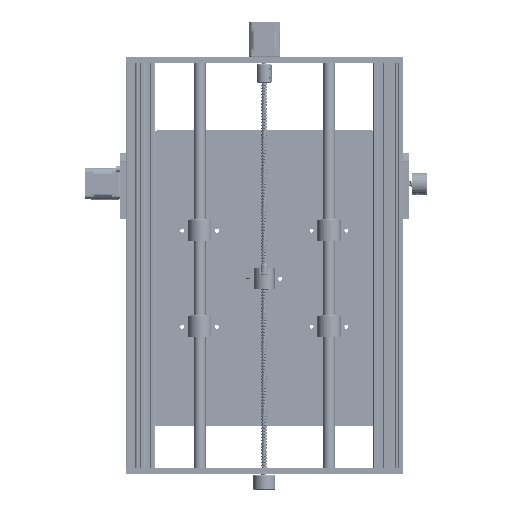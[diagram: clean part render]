
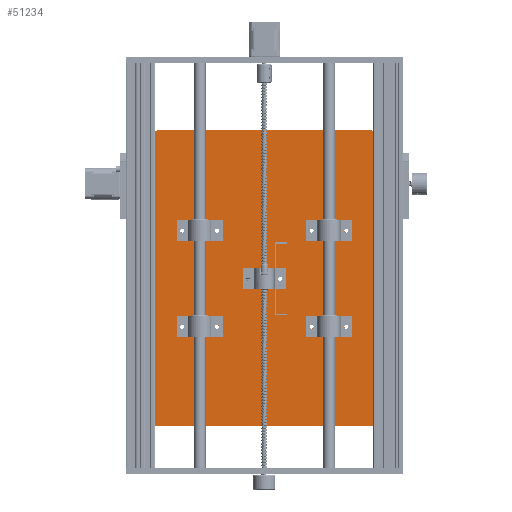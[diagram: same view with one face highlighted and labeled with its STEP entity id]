
A CAD part, front view. The second image highlights one B-rep face of the part: STEP entity #51234.
In plain terms, the highlighted planar face has unit normal (0, -1, 0).
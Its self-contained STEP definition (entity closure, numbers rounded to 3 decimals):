
#4054=FACE_BOUND('',#9950,.T.);
#4055=FACE_BOUND('',#9951,.T.);
#4056=FACE_BOUND('',#9952,.T.);
#4057=FACE_BOUND('',#9953,.T.);
#4058=FACE_BOUND('',#9954,.T.);
#4059=FACE_BOUND('',#9955,.T.);
#4060=FACE_BOUND('',#9956,.T.);
#4061=FACE_BOUND('',#9957,.T.);
#4062=FACE_BOUND('',#9958,.T.);
#4063=FACE_BOUND('',#9959,.T.);
#4868=PLANE('',#55576);
#7024=FACE_OUTER_BOUND('',#9949,.T.);
#9949=EDGE_LOOP('',(#43208,#43209,#43210,#43211,#43212,#43213,#43214,#43215));
#9950=EDGE_LOOP('',(#43216));
#9951=EDGE_LOOP('',(#43217));
#9952=EDGE_LOOP('',(#43218));
#9953=EDGE_LOOP('',(#43219));
#9954=EDGE_LOOP('',(#43220));
#9955=EDGE_LOOP('',(#43221));
#9956=EDGE_LOOP('',(#43222));
#9957=EDGE_LOOP('',(#43223));
#9958=EDGE_LOOP('',(#43224));
#9959=EDGE_LOOP('',(#43225));
#13621=LINE('',#150830,#17149);
#13624=LINE('',#150839,#17152);
#13627=LINE('',#150847,#17155);
#13629=LINE('',#150853,#17157);
#17149=VECTOR('',#64665,10.);
#17152=VECTOR('',#64676,10.);
#17155=VECTOR('',#64685,10.);
#17157=VECTOR('',#64693,10.);
#18651=CIRCLE('',#55485,2.65);
#18655=CIRCLE('',#55492,2.65);
#18659=CIRCLE('',#55499,2.65);
#18663=CIRCLE('',#55506,2.65);
#18667=CIRCLE('',#55513,2.65);
#18671=CIRCLE('',#55520,2.65);
#18675=CIRCLE('',#55527,2.65);
#18679=CIRCLE('',#55534,2.65);
#18683=CIRCLE('',#55541,2.65);
#18687=CIRCLE('',#55548,2.65);
#18692=CIRCLE('',#55564,5.);
#18693=CIRCLE('',#55568,5.);
#18694=CIRCLE('',#55571,5.);
#18695=CIRCLE('',#55574,5.);
#23011=VERTEX_POINT('',#150635);
#23015=VERTEX_POINT('',#150648);
#23019=VERTEX_POINT('',#150661);
#23023=VERTEX_POINT('',#150674);
#23027=VERTEX_POINT('',#150687);
#23031=VERTEX_POINT('',#150700);
#23035=VERTEX_POINT('',#150713);
#23039=VERTEX_POINT('',#150726);
#23043=VERTEX_POINT('',#150739);
#23047=VERTEX_POINT('',#150752);
#23072=VERTEX_POINT('',#150822);
#23073=VERTEX_POINT('',#150824);
#23074=VERTEX_POINT('',#150828);
#23075=VERTEX_POINT('',#150833);
#23076=VERTEX_POINT('',#150837);
#23077=VERTEX_POINT('',#150841);
#23078=VERTEX_POINT('',#150845);
#23079=VERTEX_POINT('',#150849);
#29967=EDGE_CURVE('',#23011,#23011,#18651,.T.);
#29973=EDGE_CURVE('',#23015,#23015,#18655,.T.);
#29979=EDGE_CURVE('',#23019,#23019,#18659,.T.);
#29985=EDGE_CURVE('',#23023,#23023,#18663,.T.);
#29991=EDGE_CURVE('',#23027,#23027,#18667,.T.);
#29997=EDGE_CURVE('',#23031,#23031,#18671,.T.);
#30003=EDGE_CURVE('',#23035,#23035,#18675,.T.);
#30009=EDGE_CURVE('',#23039,#23039,#18679,.T.);
#30015=EDGE_CURVE('',#23043,#23043,#18683,.T.);
#30021=EDGE_CURVE('',#23047,#23047,#18687,.T.);
#30055=EDGE_CURVE('',#23072,#23073,#18692,.T.);
#30058=EDGE_CURVE('',#23074,#23072,#13621,.T.);
#30060=EDGE_CURVE('',#23075,#23074,#18693,.T.);
#30062=EDGE_CURVE('',#23076,#23075,#13624,.T.);
#30064=EDGE_CURVE('',#23077,#23076,#18694,.T.);
#30066=EDGE_CURVE('',#23078,#23077,#13627,.T.);
#30068=EDGE_CURVE('',#23079,#23078,#18695,.T.);
#30069=EDGE_CURVE('',#23073,#23079,#13629,.T.);
#43208=ORIENTED_EDGE('',*,*,#30055,.F.);
#43209=ORIENTED_EDGE('',*,*,#30058,.F.);
#43210=ORIENTED_EDGE('',*,*,#30060,.F.);
#43211=ORIENTED_EDGE('',*,*,#30062,.F.);
#43212=ORIENTED_EDGE('',*,*,#30064,.F.);
#43213=ORIENTED_EDGE('',*,*,#30066,.F.);
#43214=ORIENTED_EDGE('',*,*,#30068,.F.);
#43215=ORIENTED_EDGE('',*,*,#30069,.F.);
#43216=ORIENTED_EDGE('',*,*,#29967,.T.);
#43217=ORIENTED_EDGE('',*,*,#29973,.T.);
#43218=ORIENTED_EDGE('',*,*,#29979,.T.);
#43219=ORIENTED_EDGE('',*,*,#29985,.T.);
#43220=ORIENTED_EDGE('',*,*,#29991,.T.);
#43221=ORIENTED_EDGE('',*,*,#29997,.T.);
#43222=ORIENTED_EDGE('',*,*,#30003,.T.);
#43223=ORIENTED_EDGE('',*,*,#30009,.T.);
#43224=ORIENTED_EDGE('',*,*,#30015,.T.);
#43225=ORIENTED_EDGE('',*,*,#30021,.T.);
#51234=ADVANCED_FACE('',(#7024,#4054,#4055,#4056,#4057,#4058,#4059,#4060,
#4061,#4062,#4063),#4868,.F.);
#55485=AXIS2_PLACEMENT_3D('',#150637,#64454,#64455);
#55492=AXIS2_PLACEMENT_3D('',#150650,#64470,#64471);
#55499=AXIS2_PLACEMENT_3D('',#150663,#64486,#64487);
#55506=AXIS2_PLACEMENT_3D('',#150676,#64502,#64503);
#55513=AXIS2_PLACEMENT_3D('',#150689,#64518,#64519);
#55520=AXIS2_PLACEMENT_3D('',#150702,#64534,#64535);
#55527=AXIS2_PLACEMENT_3D('',#150715,#64550,#64551);
#55534=AXIS2_PLACEMENT_3D('',#150728,#64566,#64567);
#55541=AXIS2_PLACEMENT_3D('',#150741,#64582,#64583);
#55548=AXIS2_PLACEMENT_3D('',#150754,#64598,#64599);
#55564=AXIS2_PLACEMENT_3D('',#150825,#64659,#64660);
#55568=AXIS2_PLACEMENT_3D('',#150835,#64671,#64672);
#55571=AXIS2_PLACEMENT_3D('',#150843,#64680,#64681);
#55574=AXIS2_PLACEMENT_3D('',#150851,#64689,#64690);
#55576=AXIS2_PLACEMENT_3D('',#150854,#64694,#64695);
#64454=DIRECTION('center_axis',(0.,1.,0.));
#64455=DIRECTION('ref_axis',(1.,0.,0.));
#64470=DIRECTION('center_axis',(0.,1.,0.));
#64471=DIRECTION('ref_axis',(1.,0.,0.));
#64486=DIRECTION('center_axis',(0.,1.,0.));
#64487=DIRECTION('ref_axis',(1.,0.,0.));
#64502=DIRECTION('center_axis',(0.,1.,0.));
#64503=DIRECTION('ref_axis',(1.,0.,0.));
#64518=DIRECTION('center_axis',(0.,1.,0.));
#64519=DIRECTION('ref_axis',(1.,0.,0.));
#64534=DIRECTION('center_axis',(0.,1.,0.));
#64535=DIRECTION('ref_axis',(1.,0.,0.));
#64550=DIRECTION('center_axis',(0.,1.,0.));
#64551=DIRECTION('ref_axis',(1.,0.,0.));
#64566=DIRECTION('center_axis',(0.,1.,0.));
#64567=DIRECTION('ref_axis',(1.,0.,0.));
#64582=DIRECTION('center_axis',(0.,1.,0.));
#64583=DIRECTION('ref_axis',(1.,0.,0.));
#64598=DIRECTION('center_axis',(0.,1.,0.));
#64599=DIRECTION('ref_axis',(1.,0.,0.));
#64659=DIRECTION('center_axis',(0.,1.,0.));
#64660=DIRECTION('ref_axis',(-0.707,0.,-0.707));
#64665=DIRECTION('',(-1.,0.,0.));
#64671=DIRECTION('center_axis',(0.,1.,0.));
#64672=DIRECTION('ref_axis',(0.707,0.,-0.707));
#64676=DIRECTION('',(0.,0.,-1.));
#64680=DIRECTION('center_axis',(0.,1.,0.));
#64681=DIRECTION('ref_axis',(0.707,0.,0.707));
#64685=DIRECTION('',(1.,0.,0.));
#64689=DIRECTION('center_axis',(0.,1.,0.));
#64690=DIRECTION('ref_axis',(-0.707,0.,0.707));
#64693=DIRECTION('',(0.,0.,1.));
#64694=DIRECTION('center_axis',(0.,1.,0.));
#64695=DIRECTION('ref_axis',(0.,0.,1.));
#150635=CARTESIAN_POINT('',(-67.15,0.,111.));
#150637=CARTESIAN_POINT('Origin',(-64.5,0.,111.));
#150648=CARTESIAN_POINT('',(-67.15,0.,64.));
#150650=CARTESIAN_POINT('Origin',(-64.5,0.,64.));
#150661=CARTESIAN_POINT('',(-67.15,0.,-111.));
#150663=CARTESIAN_POINT('Origin',(-64.5,0.,-111.));
#150674=CARTESIAN_POINT('',(-67.15,0.,-64.));
#150676=CARTESIAN_POINT('Origin',(-64.5,0.,-64.));
#150687=CARTESIAN_POINT('',(-2.15,0.,-21.5));
#150689=CARTESIAN_POINT('Origin',(0.5,0.,-21.5));
#150700=CARTESIAN_POINT('',(-2.15,0.,21.5));
#150702=CARTESIAN_POINT('Origin',(0.5,0.,21.5));
#150713=CARTESIAN_POINT('',(62.85,0.,111.));
#150715=CARTESIAN_POINT('Origin',(65.5,0.,111.));
#150726=CARTESIAN_POINT('',(62.85,0.,64.));
#150728=CARTESIAN_POINT('Origin',(65.5,0.,64.));
#150739=CARTESIAN_POINT('',(62.85,0.,-111.));
#150741=CARTESIAN_POINT('Origin',(65.5,0.,-111.));
#150752=CARTESIAN_POINT('',(62.85,0.,-64.));
#150754=CARTESIAN_POINT('Origin',(65.5,0.,-64.));
#150822=CARTESIAN_POINT('',(-195.,0.,-150.));
#150824=CARTESIAN_POINT('',(-200.,0.,-145.));
#150825=CARTESIAN_POINT('Origin',(-195.,0.,-145.));
#150828=CARTESIAN_POINT('',(195.,0.,-150.));
#150830=CARTESIAN_POINT('',(200.,0.,-150.));
#150833=CARTESIAN_POINT('',(200.,0.,-145.));
#150835=CARTESIAN_POINT('Origin',(195.,0.,-145.));
#150837=CARTESIAN_POINT('',(200.,0.,145.));
#150839=CARTESIAN_POINT('',(200.,0.,150.));
#150841=CARTESIAN_POINT('',(195.,0.,150.));
#150843=CARTESIAN_POINT('Origin',(195.,0.,145.));
#150845=CARTESIAN_POINT('',(-195.,0.,150.));
#150847=CARTESIAN_POINT('',(-200.,0.,150.));
#150849=CARTESIAN_POINT('',(-200.,0.,145.));
#150851=CARTESIAN_POINT('Origin',(-195.,0.,145.));
#150853=CARTESIAN_POINT('',(-200.,0.,-150.));
#150854=CARTESIAN_POINT('Origin',(0.,0.,0.));
